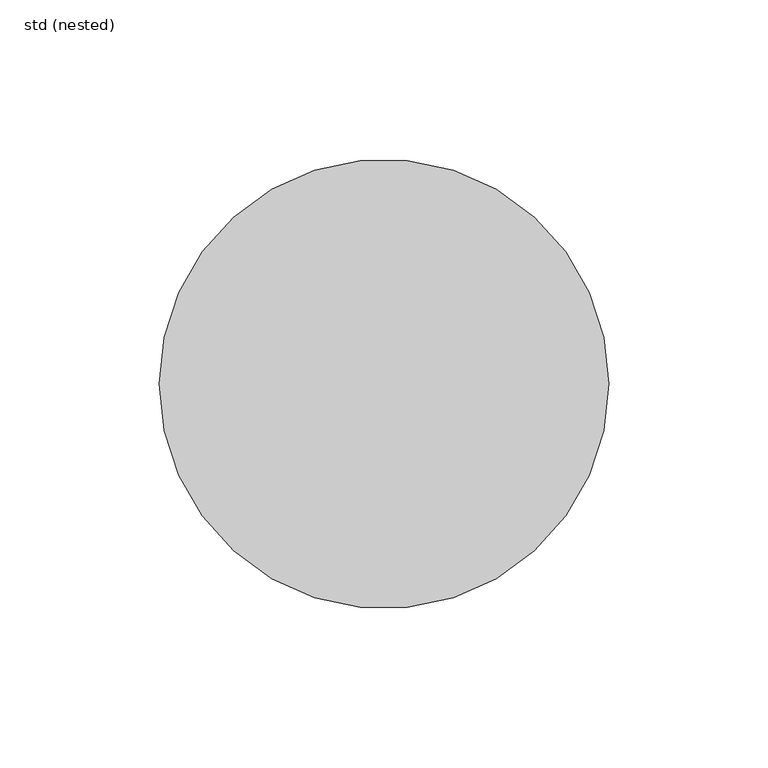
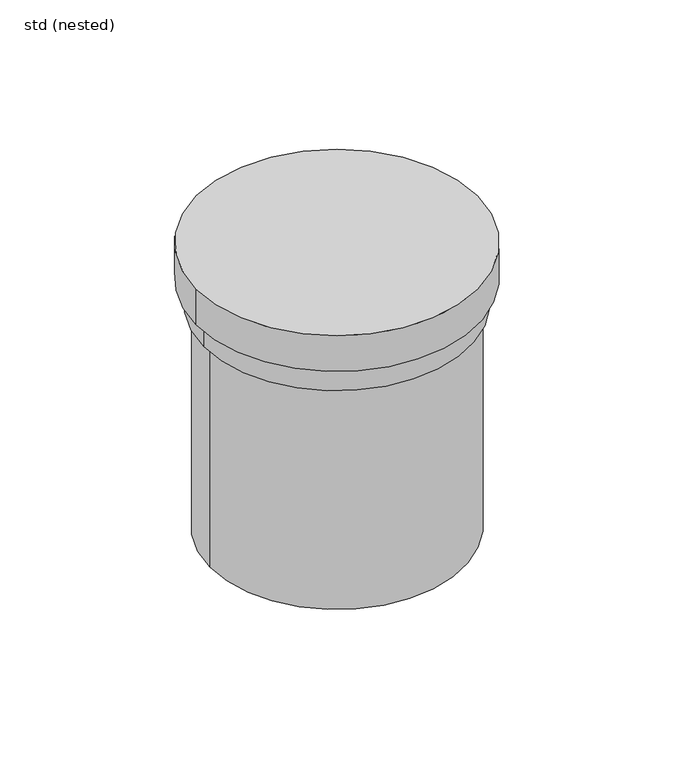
"""IFC4 building model written with IfcOpenShell, lengths in millimetres: sanitary terminal geometry, ZZZ_do_not_use_PF_GEN_UN_connecting piece_ACO : std (nested)."""

from ifc_helpers import new_model, si_unit, point, frame, origin, origin_2d, place, context, project, spatial, circle_curve, trimmed, segment, composite_curve, outline, extrude, source, transform, mapped, element, save


def std_nested_a3fcedc1(model_context):
    return source(origin(), model_context, "Body", "SweptSolid", [
        extrude(outline(composite_curve([segment(trimmed(circle_curve(origin_2d(), 63.5), [point((-63.5, 0.0))], [point((63.5, 0.0))], False, "CARTESIAN"), True, "CONTINUOUS"), segment(trimmed(circle_curve(origin_2d(), 63.5), [point((63.5, 0.0))], [point((-63.5, 0.0))], False, "CARTESIAN"), True, "CONTINUOUS")], self_intersect=False)), frame((0.0, 0.0, -150.0), z_axis=(0.0, 0.0, 1.0), x_axis=(1.0, 0.0, 0.0)), (0.0, 0.0, 1.0), 118.0),
        extrude(outline(composite_curve([segment(trimmed(circle_curve(origin_2d(), 66.5), [point((-66.5, 0.0))], [point((66.5, 0.0))], False, "CARTESIAN"), True, "CONTINUOUS"), segment(trimmed(circle_curve(origin_2d(), 66.5), [point((66.5, 0.0))], [point((-66.5, 0.0))], False, "CARTESIAN"), True, "CONTINUOUS")], self_intersect=False)), frame((0.0, 0.0, -32.0), z_axis=(0.0, 0.0, 1.0), x_axis=(1.0, 0.0, 0.0)), (0.0, 0.0, 1.0), 13.0),
        extrude(outline(composite_curve([segment(trimmed(circle_curve(origin_2d(), 70.5), [point((-70.5, 0.0))], [point((70.5, 0.0))], False, "CARTESIAN"), True, "CONTINUOUS"), segment(trimmed(circle_curve(origin_2d(), 70.5), [point((70.5, 0.0))], [point((-70.5, 0.0))], False, "CARTESIAN"), True, "CONTINUOUS")], self_intersect=False)), frame((0.0, 0.0, -19.0), z_axis=(0.0, 0.0, 1.0), x_axis=(1.0, 0.0, 0.0)), (0.0, 0.0, 1.0), 19.0),
    ])


if __name__ == "__main__":
    model = new_model("IFC4")
    model_context = context("Model", 3, world=origin())
    ifc_project = project(units=[si_unit("LENGTHUNIT", "METRE", prefix="MILLI")], contexts=[model_context])
    site = spatial("IfcSite", under=ifc_project)
    building = spatial("IfcBuilding", under=site)
    placement = place(None, origin())
    std_nested_shape = std_nested_a3fcedc1(model_context)
    element("IfcSanitaryTerminal", 1, ObjectType="ZZZ_do_not_use_PF_GEN_UN_connecting piece_ACO : std (nested)", at=placement, inside=building, context=model_context, shape_type="MappedRepresentation", body=[
        mapped(std_nested_shape, transform((0.0, 0.0, 0.0), x_axis=(1.0, 0.0, 0.0), y_axis=(0.0, 1.0, 0.0), z_axis=(0.0, 0.0, 1.0))),
    ])
    save(model, "model.ifc")
